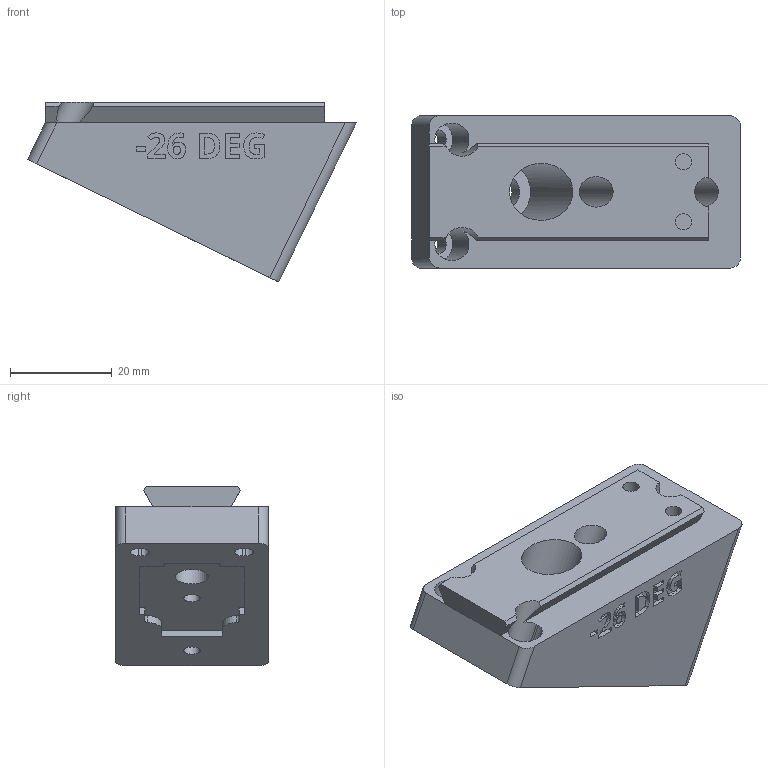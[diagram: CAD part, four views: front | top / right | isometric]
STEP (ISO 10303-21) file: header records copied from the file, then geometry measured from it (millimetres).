
FILE_DESCRIPTION(/* description */ ('STEP AP242 Edition 2','CAx-IF Rec.Pracs.---Representation and Presentation of Product Manufacturing Information (PMI)---4.0---2014-10-13','CAx-IF Rec.Pracs.---3D Tessellated Geometry---0.4---2014-09-14','2;1','CAx-IF Rec.Pracs.---User Defined Attributes---1.5---2016-08-15'),/* implementation_level */ '2;1');
FILE_NAME(/* name */ 'Camera Wedges - CAMERA MOUNTING WEDGE, NEG, -26 DEG',/* time_stamp */ '2026-08-11T00:07:30Z',/* author */ (''),/* organization */ (''),/* preprocessor_version */ 'ST-DEVELOPER v20',/* originating_system */ 'ONSHAPE BY PTC INC, 1.219',/* authorisation */ ' ');
FILE_SCHEMA (('AP242_MANAGED_MODEL_BASED_3D_ENGINEERING_MIM_LF { 1 0 10303 442 3 1 4 }'));
Length unit declared in the file: metre
Products named in the file (1): CAMERA MOUNTING WEDGE, NEG, -26 DEG
Bounding box: 64.69 x 30 x 35.38 mm (x, y, z)
Volume: 34308.1 mm3; surface area: 10167.8 mm2
Topology: 1 solids, 1 shells, 286 faces, 787 edges, 524 vertices
Faces by surface type: plane 144, bspline 84, cylinder 58
Full cylindrical faces by diameter (mm): 3.2 x4, 6 x2, 6.4 x1, 11.2 x1
Entity records: 9355 total; most frequent: CARTESIAN_POINT 2512, ORIENTED_EDGE 1556, DIRECTION 1147, EDGE_CURVE 778, VERTEX_POINT 523, LINE 479, VECTOR 479, AXIS2_PLACEMENT_3D 334
